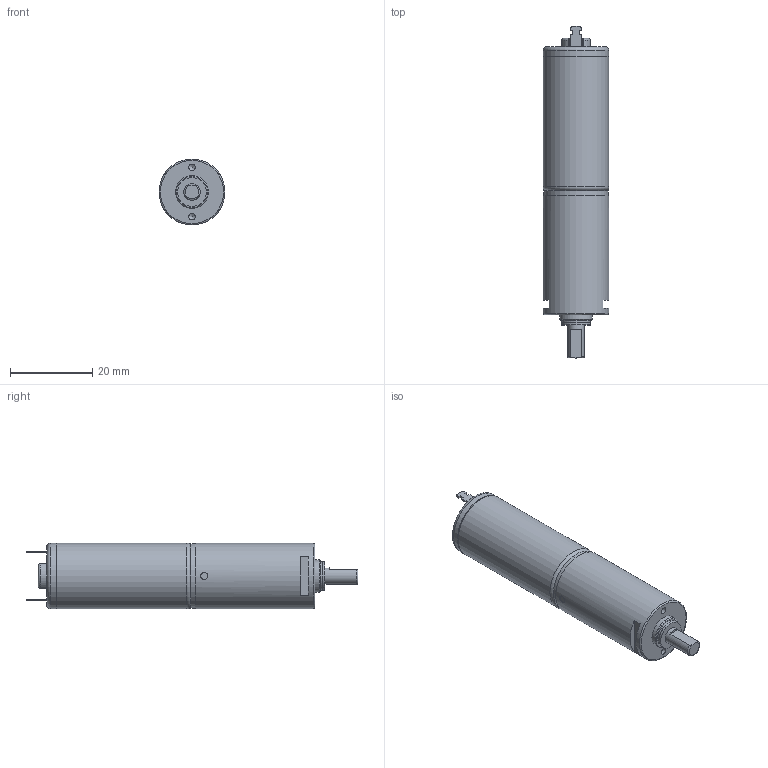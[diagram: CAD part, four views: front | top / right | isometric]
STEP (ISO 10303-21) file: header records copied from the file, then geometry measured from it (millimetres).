
FILE_DESCRIPTION((''),'2;1');
FILE_NAME('C:\Documents and Settings\SSEGAWA\デスクトップ\TP-1635B-TU-4.STP','2013-06-14T16:56:56',('SSEGAWA'),(''),'Autodesk Inventor 2010','Autodesk Inventor 2010','');
FILE_SCHEMA(('CONFIG_CONTROL_DESIGN'));
Length unit declared in the file: millimetre
Products named in the file (3): tp_1635b,c_tu_231~677_s00_12,24; tu_4; tp_1635
Assembly tree (2 placements, depth 2):
  tp_1635b,c_tu_231~677_s00_12,24
    tu_4
    tp_1635
Bounding box: 16 x 80.5 x 16 mm (x, y, z)
Volume: 13318.6 mm3; surface area: 4460.3 mm2
Topology: 2 solids, 2 shells, 97 faces, 227 edges, 144 vertices
Faces by surface type: plane 48, cylinder 24, bspline 13, torus 7, sphere 4, cone 1
Full cylindrical faces by diameter (mm): 1.5 x1, 1.7 x1, 4 x1, 6 x1, 6.8 x1, 7 x1, 8 x1, 15.6 x2, 16 x3
Entity records: 2747 total; most frequent: CARTESIAN_POINT 666, DIRECTION 426, ORIENTED_EDGE 362, EDGE_CURVE 181, AXIS2_PLACEMENT_3D 162, EDGE_LOOP 139, VERTEX_POINT 130, VECTOR 102
